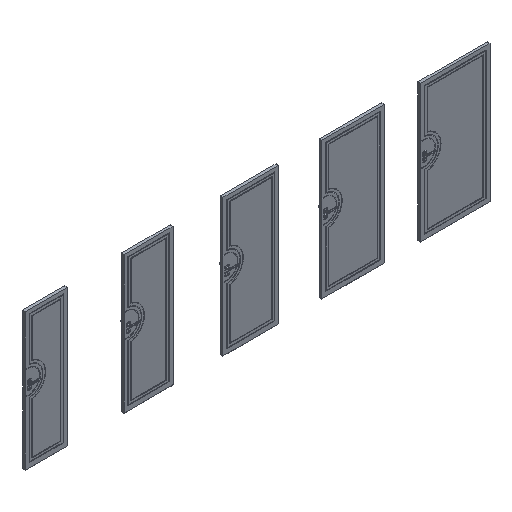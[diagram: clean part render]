
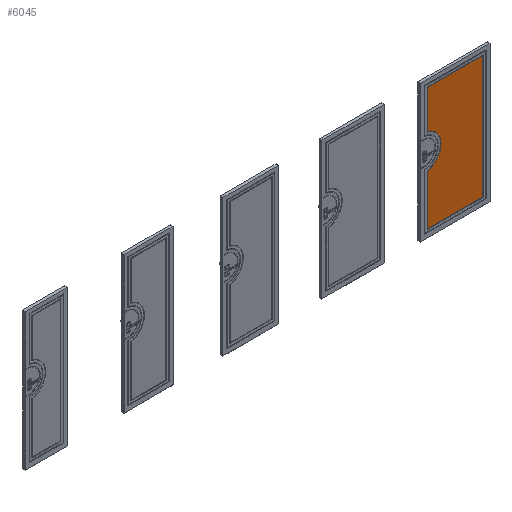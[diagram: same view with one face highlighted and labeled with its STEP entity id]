
A CAD part, isometric view. The second image highlights one B-rep face of the part: STEP entity #6045.
In plain terms, the highlighted planar face has unit normal (0, -1, 0).
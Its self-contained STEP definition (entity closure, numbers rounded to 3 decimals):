
#3884=FACE_OUTER_BOUND('',#11126,.T.);
#6045=ADVANCED_FACE('',(#3884),#7119,.F.);
#7119=PLANE('',#37369);
#8776=CIRCLE('',#37288,257.15);
#11126=EDGE_LOOP('',(#18939,#18940,#18941,#18942,#18943,#18944));
#18939=ORIENTED_EDGE('',*,*,#28095,.T.);
#18940=ORIENTED_EDGE('',*,*,#28096,.T.);
#18941=ORIENTED_EDGE('',*,*,#28086,.T.);
#18942=ORIENTED_EDGE('',*,*,#28089,.T.);
#18943=ORIENTED_EDGE('',*,*,#28091,.T.);
#18944=ORIENTED_EDGE('',*,*,#28093,.T.);
#23759=VERTEX_POINT('',#60625);
#23760=VERTEX_POINT('',#60627);
#23761=VERTEX_POINT('',#60634);
#23762=VERTEX_POINT('',#60641);
#23763=VERTEX_POINT('',#60645);
#23764=VERTEX_POINT('',#60649);
#28086=EDGE_CURVE('',#23760,#23759,#31231,.T.);
#28089=EDGE_CURVE('',#23759,#23761,#31233,.T.);
#28091=EDGE_CURVE('',#23761,#23762,#8776,.T.);
#28093=EDGE_CURVE('',#23762,#23763,#31235,.T.);
#28095=EDGE_CURVE('',#23763,#23764,#31237,.T.);
#28096=EDGE_CURVE('',#23764,#23760,#31238,.T.);
#31231=LINE('',#60626,#33641);
#31233=LINE('',#60635,#33643);
#31235=LINE('',#60646,#33645);
#31237=LINE('',#60650,#33647);
#31238=LINE('',#60652,#33648);
#33641=VECTOR('',#45962,1.);
#33643=VECTOR('',#45966,1.);
#33645=VECTOR('',#45974,1.);
#33647=VECTOR('',#45978,1.);
#33648=VECTOR('',#45981,1.);
#37288=AXIS2_PLACEMENT_3D('',#60642,#45969,#45970);
#37369=AXIS2_PLACEMENT_3D('',#60889,#46163,#46164);
#45962=DIRECTION('',(-1.,0.,0.));
#45966=DIRECTION('',(0.,0.,-1.));
#45969=DIRECTION('',(0.,1.,0.));
#45970=DIRECTION('',(0.229,0.,0.973));
#45974=DIRECTION('',(0.,0.,-1.));
#45978=DIRECTION('',(1.,0.,0.));
#45981=DIRECTION('',(0.,0.,1.));
#46163=DIRECTION('',(0.,1.,0.));
#46164=DIRECTION('',(0.,0.,1.));
#60625=CARTESIAN_POINT('',(5595.15,-39.3,1912.85));
#60626=CARTESIAN_POINT('',(6409.,-39.3,1912.85));
#60627=CARTESIAN_POINT('',(6404.85,-39.3,1912.85));
#60634=CARTESIAN_POINT('',(5595.15,-39.3,1353.527));
#60635=CARTESIAN_POINT('',(5595.15,-39.3,1917.));
#60641=CARTESIAN_POINT('',(5595.15,-39.3,854.473));
#60642=CARTESIAN_POINT('',(5533.,-39.3,1104.));
#60645=CARTESIAN_POINT('',(5595.15,-39.3,117.15));
#60646=CARTESIAN_POINT('',(5595.15,-39.3,857.738));
#60649=CARTESIAN_POINT('',(6404.85,-39.3,117.15));
#60650=CARTESIAN_POINT('',(5591.,-39.3,117.15));
#60652=CARTESIAN_POINT('',(6404.85,-39.3,113.));
#60889=CARTESIAN_POINT('',(5691.,-39.3,2017.));
